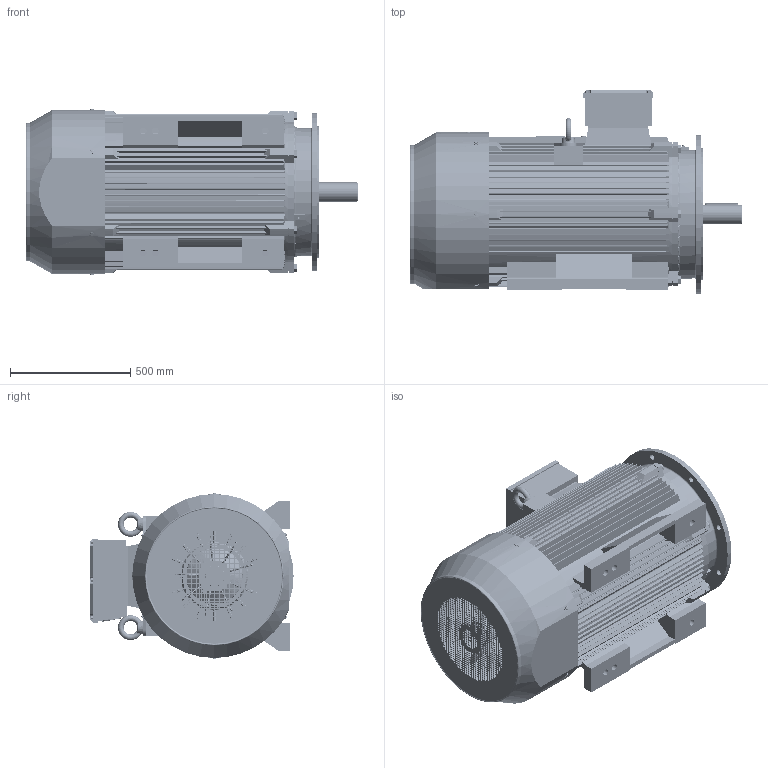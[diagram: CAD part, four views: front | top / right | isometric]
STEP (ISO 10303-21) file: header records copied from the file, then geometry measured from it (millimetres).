
FILE_DESCRIPTION (( 'STEP AP214' ), '1' );
FILE_NAME ('BCT3132.31D435.11.STEP', '2020-04-23T13:31:54', ( '' ), ( '' ), 'SwSTEP 2.0', 'SolidWorks 2019', '' );
FILE_SCHEMA (( 'AUTOMOTIVE_DESIGN' ));
Length unit declared in the file: millimetre
Products named in the file (1): BCT3132.31D435.11
Bounding box: 1382 x 846 x 694.6 mm (x, y, z)
Volume: 118801604.4 mm3; surface area: 13650415.7 mm2
Topology: 48 solids, 48 shells, 8236 faces, 23076 edges, 15136 vertices
Faces by surface type: plane 5855, cylinder 984, cone 491, torus 449, sphere 248, bspline 209
Entity records: 324882 total; most frequent: CARTESIAN_POINT 111240, ORIENTED_EDGE 46124, DIRECTION 40075, EDGE_CURVE 23062, VECTOR 16453, LINE 16453, VERTEX_POINT 15132, AXIS2_PLACEMENT_3D 11811
